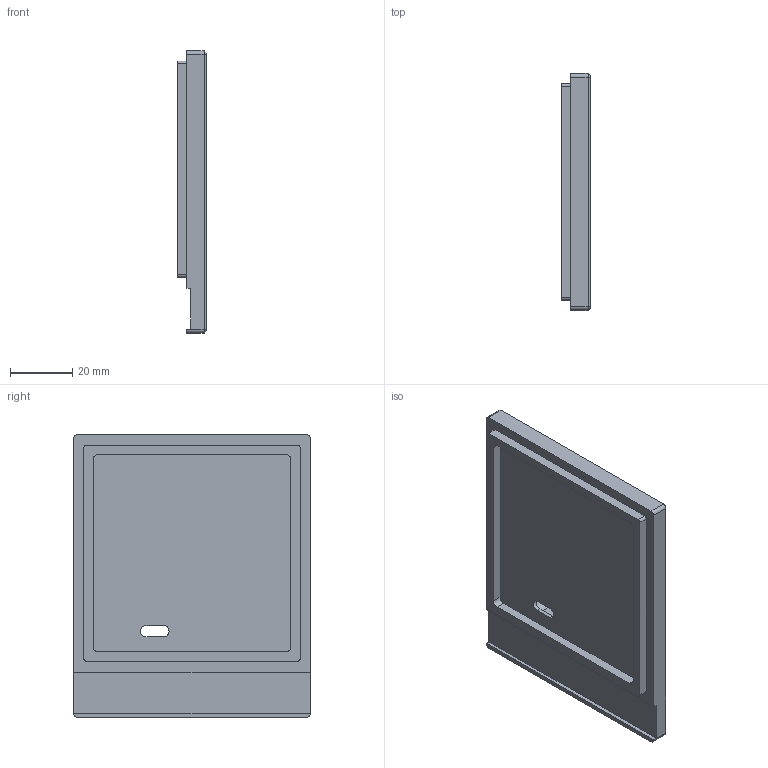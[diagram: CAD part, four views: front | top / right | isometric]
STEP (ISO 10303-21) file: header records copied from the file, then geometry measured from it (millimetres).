
FILE_DESCRIPTION(('Open CASCADE Model'),'2;1');
FILE_NAME('Open CASCADE Shape Model','2026-09-29T12:48:02',('Author'),( 'Open CASCADE'),'Open CASCADE STEP processor 7.9','Open CASCADE 7.9' ,'Unknown');
FILE_SCHEMA(('AUTOMOTIVE_DESIGN { 1 0 10303 214 1 1 1 1 }'));
Length unit declared in the file: millimetre
Products named in the file (1): Open CASCADE STEP translator 7.9 4
Bounding box: 9.35 x 76.2 x 90.9 mm (x, y, z)
Volume: 44603.8 mm3; surface area: 17686.2 mm2
Topology: 1 solids, 1 shells, 57 faces, 148 edges, 96 vertices
Faces by surface type: plane 33, cylinder 20, cone 4
Entity records: 3652 total; most frequent: CARTESIAN_POINT 734, DIRECTION 528, ORIENTED_EDGE 296, LINE 296, VECTOR 296, PCURVE 296, DEFINITIONAL_REPRESENTATION 296, EDGE_CURVE 148
